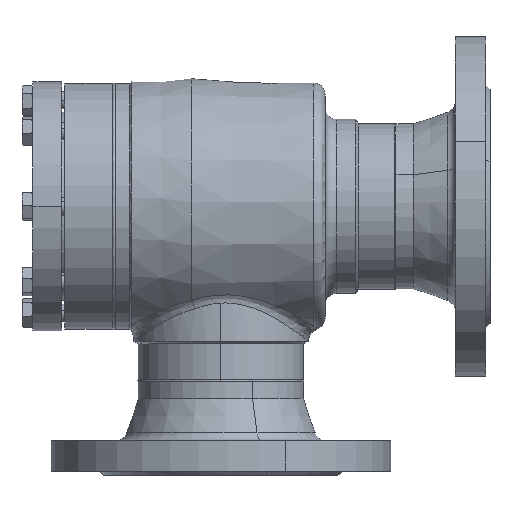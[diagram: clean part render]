
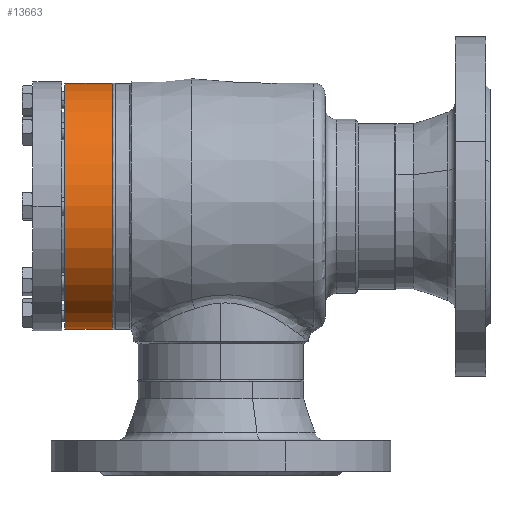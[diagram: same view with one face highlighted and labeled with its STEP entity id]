
A CAD part, left-side view. The second image highlights one B-rep face of the part: STEP entity #13663.
In plain terms, the highlighted cylindrical face has radius 85 mm (diameter 170 mm), a partial arc.
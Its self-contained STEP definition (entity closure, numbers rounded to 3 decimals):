
#17934 = VERTEX_POINT ( 'NONE', #2895 ) ;
#17991 = VERTEX_POINT ( 'NONE', #2953 ) ;
#1818 = EDGE_CURVE ( 'NONE', #16157, #4730, #11617, .T. ) ;
#2212 = ORIENTED_EDGE ( 'NONE', *, *, #9617, .T. ) ;
#2895 = CARTESIAN_POINT ( 'NONE',  ( 0., -33., -85. ) ) ;
#2953 = CARTESIAN_POINT ( 'NONE',  ( 0., -33., 85. ) ) ;
#3170 = FACE_OUTER_BOUND ( 'NONE', #14557, .T. ) ;
#3171 = CYLINDRICAL_SURFACE ( 'NONE', #3172, 85. ) ;
#3172 = AXIS2_PLACEMENT_3D ( 'NONE', #3173, #3174, #3175 ) ;
#3173 = CARTESIAN_POINT ( 'NONE',  ( 0., -33., 0. ) ) ;
#3174 = DIRECTION ( 'NONE',  ( 0., 1., 0. ) ) ;
#3175 = DIRECTION ( 'NONE',  ( 0., 0., 1. ) ) ;
#4730 = VERTEX_POINT ( 'NONE', #4908 ) ;
#4908 = CARTESIAN_POINT ( 'NONE',  ( 0., 0., 85. ) ) ;
#6095 = EDGE_CURVE ( 'NONE', #17934, #17991, #7322, .T. ) ;
#6447 = ORIENTED_EDGE ( 'NONE', *, *, #6095, .T. ) ;
#7322 = CIRCLE ( 'NONE', #7323, 85. ) ;
#7323 = AXIS2_PLACEMENT_3D ( 'NONE', #7324, #7325, #7326 ) ;
#7324 = CARTESIAN_POINT ( 'NONE',  ( 0., -33., 0. ) ) ;
#7325 = DIRECTION ( 'NONE',  ( 0., 1., 0. ) ) ;
#7326 = DIRECTION ( 'NONE',  ( 0., 0., 1. ) ) ;
#9617 = EDGE_CURVE ( 'NONE', #17991, #4730, #10756, .T. ) ;
#9966 = EDGE_CURVE ( 'NONE', #17934, #16157, #10988, .T. ) ;
#10503 = ORIENTED_EDGE ( 'NONE', *, *, #1818, .F. ) ;
#10756 = LINE ( 'NONE', #10757, #10758 ) ;
#10757 = CARTESIAN_POINT ( 'NONE',  ( 0., -33., 85. ) ) ;
#10758 = VECTOR ( 'NONE', #10759, 1000. ) ;
#10759 = DIRECTION ( 'NONE',  ( 0., 1., 0. ) ) ;
#10988 = LINE ( 'NONE', #10989, #10990 ) ;
#10989 = CARTESIAN_POINT ( 'NONE',  ( 0., -33., -85. ) ) ;
#10990 = VECTOR ( 'NONE', #10991, 1000. ) ;
#10991 = DIRECTION ( 'NONE',  ( 0., 1., 0. ) ) ;
#11617 = CIRCLE ( 'NONE', #11618, 85. ) ;
#11618 = AXIS2_PLACEMENT_3D ( 'NONE', #11619, #11620, #11621 ) ;
#11619 = CARTESIAN_POINT ( 'NONE',  ( 0., 0., 0. ) ) ;
#11620 = DIRECTION ( 'NONE',  ( 0., 1., 0. ) ) ;
#11621 = DIRECTION ( 'NONE',  ( 0., 0., 1. ) ) ;
#13663 = ADVANCED_FACE ( 'NONE', ( #3170 ), #3171, .T. ) ;
#14053 = CARTESIAN_POINT ( 'NONE',  ( 0., 0., -85. ) ) ;
#14095 = ORIENTED_EDGE ( 'NONE', *, *, #9966, .F. ) ;
#14557 = EDGE_LOOP ( 'NONE', ( #14095, #6447, #2212, #10503 ) ) ;
#16157 = VERTEX_POINT ( 'NONE', #14053 ) ;
